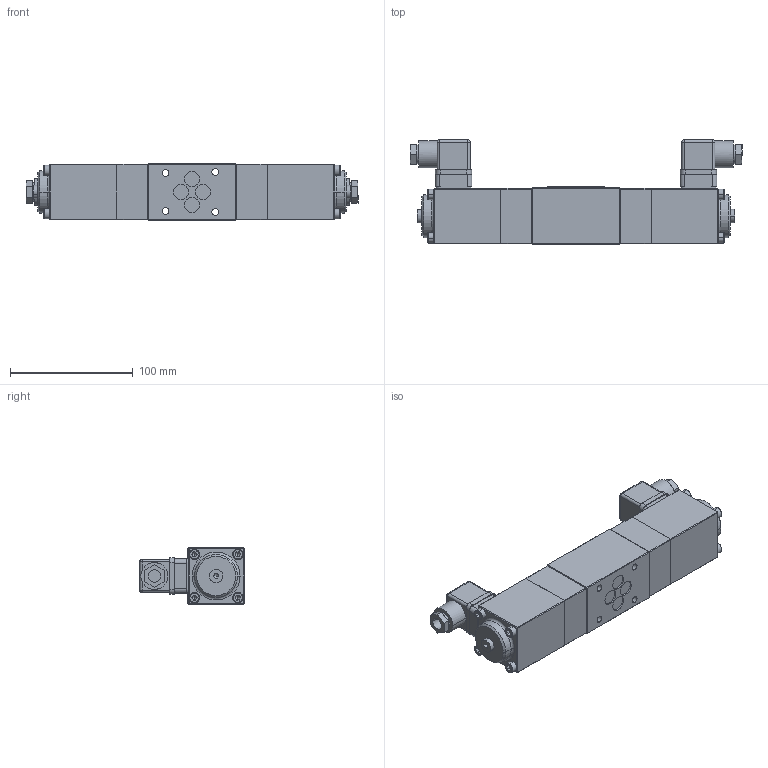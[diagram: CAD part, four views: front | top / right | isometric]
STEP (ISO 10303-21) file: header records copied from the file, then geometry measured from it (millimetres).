
FILE_DESCRIPTION (( 'STEP AP214' ), '1' );
FILE_NAME ('A.3206rr.STEP', '2024-02-15T14:03:55', ( '' ), ( '' ), 'SwSTEP 2.0', 'SolidWorks 2022', '' );
FILE_SCHEMA (( 'AUTOMOTIVE_DESIGN' ));
Length unit declared in the file: millimetre
Products named in the file (1): A.3206rr
Bounding box: 270.45 x 85.3 x 46 mm (x, y, z)
Volume: 562277.6 mm3; surface area: 66597.4 mm2
Topology: 1 solids, 1 shells, 539 faces, 1289 edges, 784 vertices
Faces by surface type: plane 355, cylinder 118, cone 32, torus 20, bspline 14
Entity records: 21456 total; most frequent: CARTESIAN_POINT 3203, DIRECTION 2639, ORIENTED_EDGE 2522, EDGE_CURVE 1261, AXIS2_PLACEMENT_3D 884, VECTOR 871, LINE 871, VERTEX_POINT 784
